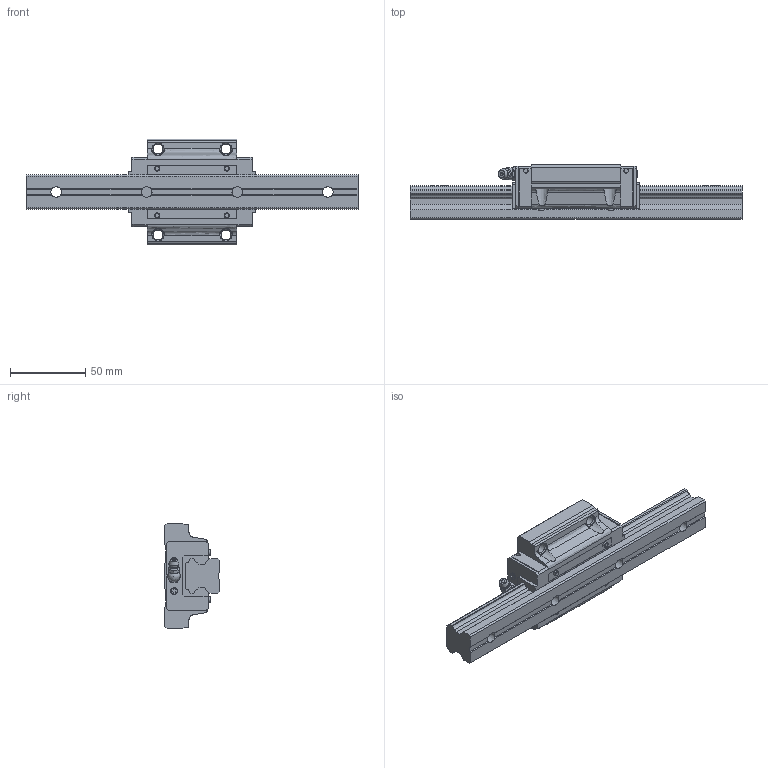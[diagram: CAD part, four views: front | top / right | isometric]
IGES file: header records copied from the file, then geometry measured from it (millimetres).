
Start section: Data from Parasolid IGES Translator 26.0.171, Copyright(c) 2006 Siemens PLM Software. All Rights Reserved.
Global section: file name: HSR25M1A1SS-220L_G20_0_B-M6F_68-05_0_0_0_1.igs; native system: By Siemens PLM Incorporated; preprocessor: XPlus GENERIC/IGES 26.0.171; author: Noname; organization: Noname; date: 20240523.060914; units: millimetre
Bounding box: 220 x 36 x 70 mm (x, y, z)
Surface area: 45723.2 mm2 (no closed solid volume)
Topology: 0 solids, 0 shells, 311 faces, 1684 edges, 1611 vertices
Faces by surface type: extrusion 222, revolution 89
